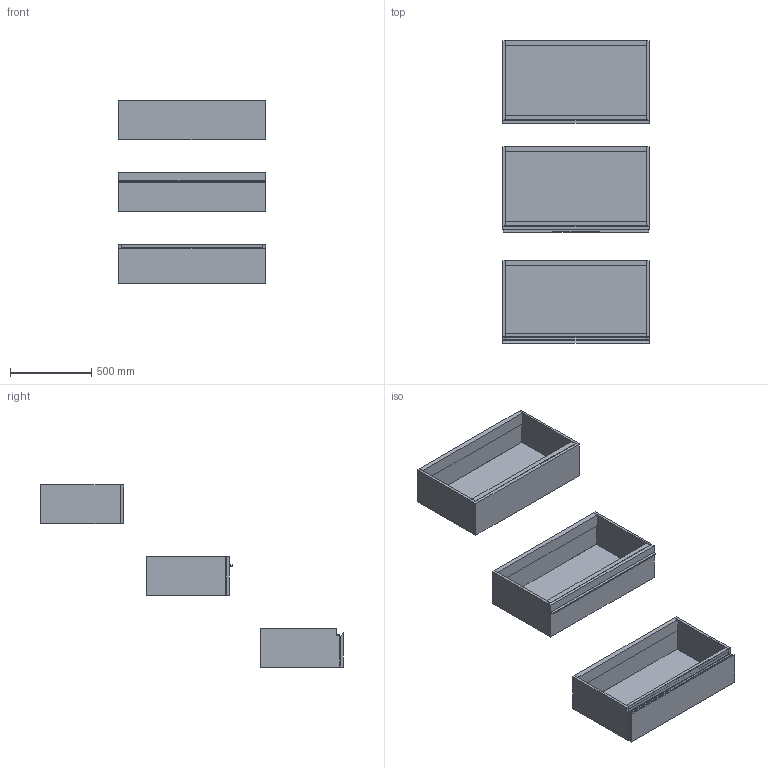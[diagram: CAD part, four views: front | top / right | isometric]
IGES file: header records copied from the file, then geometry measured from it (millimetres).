
Start section: Data from Parasolid IGES Translator 19.0.9, Copyright(c) 2006 Siemens PL M Software. All Rights Reserved.
Global section: file name: noorth-SI-H 24 D 51 W 90_8304.igs; native system: By Siemens PLM Incorporated; preprocessor: XPlus GENERIC/IGES 19.0.9; author: Noname; organization: Noname; date: 20200530.120119; units: metre
Bounding box: 900 x 1857.1 x 1120.01 mm (x, y, z)
Volume: 52293305.7 mm3; surface area: 7634804.7 mm2
Topology: 23 solids, 23 shells, 196 faces, 418 edges, 258 vertices
Faces by surface type: plane 152, extrusion 16, bspline 16, cylinder 12
